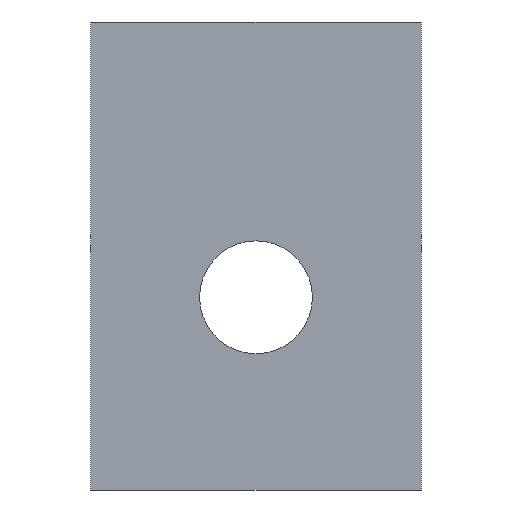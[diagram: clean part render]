
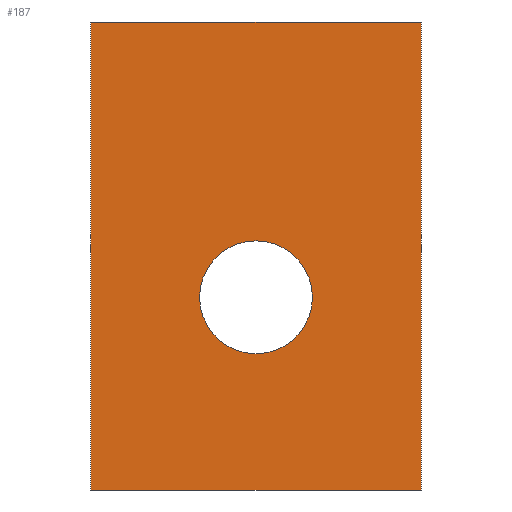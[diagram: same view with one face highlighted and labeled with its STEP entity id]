
A CAD part, front view. The second image highlights one B-rep face of the part: STEP entity #187.
In plain terms, the highlighted planar face has unit normal (0, -1, 0).
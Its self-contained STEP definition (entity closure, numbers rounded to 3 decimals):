
#7 = LINE ( 'NONE', #64, #305 ) ;
#15 = VECTOR ( 'NONE', #193, 1000. ) ;
#19 = EDGE_CURVE ( 'NONE', #185, #46, #284, .T. ) ;
#25 = CARTESIAN_POINT ( 'NONE',  ( 60., 0., -85. ) ) ;
#45 = DIRECTION ( 'NONE',  ( 1., 0., 0. ) ) ;
#46 = VERTEX_POINT ( 'NONE', #262 ) ;
#48 = EDGE_CURVE ( 'NONE', #135, #62, #7, .T. ) ;
#52 = CARTESIAN_POINT ( 'NONE',  ( 60., 0., 0. ) ) ;
#62 = VERTEX_POINT ( 'NONE', #308 ) ;
#63 = EDGE_LOOP ( 'NONE', ( #86, #82 ) ) ;
#64 = CARTESIAN_POINT ( 'NONE',  ( 0., 0., -85. ) ) ;
#65 = VECTOR ( 'NONE', #147, 1000. ) ;
#75 = VECTOR ( 'NONE', #45, 1000. ) ;
#82 = ORIENTED_EDGE ( 'NONE', *, *, #264, .T. ) ;
#86 = ORIENTED_EDGE ( 'NONE', *, *, #242, .T. ) ;
#87 = ORIENTED_EDGE ( 'NONE', *, *, #48, .F. ) ;
#91 = VERTEX_POINT ( 'NONE', #256 ) ;
#92 = CIRCLE ( 'NONE', #304, 10.25 ) ;
#112 = DIRECTION ( 'NONE',  ( -1., 0., 0. ) ) ;
#117 = DIRECTION ( 'NONE',  ( 0., -1., 0. ) ) ;
#118 = AXIS2_PLACEMENT_3D ( 'NONE', #128, #218, #273 ) ;
#119 = FACE_OUTER_BOUND ( 'NONE', #204, .T. ) ;
#128 = CARTESIAN_POINT ( 'NONE',  ( 30., 0., -50. ) ) ;
#130 = FACE_BOUND ( 'NONE', #63, .T. ) ;
#131 = DIRECTION ( 'NONE',  ( 0., 1., 0. ) ) ;
#135 = VERTEX_POINT ( 'NONE', #25 ) ;
#147 = DIRECTION ( 'NONE',  ( 0., 0., -1. ) ) ;
#153 = CARTESIAN_POINT ( 'NONE',  ( 30., 0., -39.75 ) ) ;
#159 = EDGE_CURVE ( 'NONE', #46, #135, #216, .T. ) ;
#174 = CARTESIAN_POINT ( 'NONE',  ( 30., 0., -50. ) ) ;
#185 = VERTEX_POINT ( 'NONE', #189 ) ;
#187 = ADVANCED_FACE ( 'NONE', ( #119, #130 ), #191, .T. ) ;
#189 = CARTESIAN_POINT ( 'NONE',  ( 0., 0., 0. ) ) ;
#191 = PLANE ( 'NONE',  #269 ) ;
#193 = DIRECTION ( 'NONE',  ( 0., 0., 1. ) ) ;
#195 = DIRECTION ( 'NONE',  ( 0., 0., -1. ) ) ;
#200 = EDGE_CURVE ( 'NONE', #62, #185, #207, .T. ) ;
#204 = EDGE_LOOP ( 'NONE', ( #302, #87, #229, #219 ) ) ;
#207 = LINE ( 'NONE', #232, #15 ) ;
#216 = LINE ( 'NONE', #52, #65 ) ;
#217 = DIRECTION ( 'NONE',  ( 0., 0., 1. ) ) ;
#218 = DIRECTION ( 'NONE',  ( 0., 1., 0. ) ) ;
#219 = ORIENTED_EDGE ( 'NONE', *, *, #19, .F. ) ;
#229 = ORIENTED_EDGE ( 'NONE', *, *, #159, .F. ) ;
#232 = CARTESIAN_POINT ( 'NONE',  ( 0., 0., 0. ) ) ;
#237 = CARTESIAN_POINT ( 'NONE',  ( 0., 0., 0. ) ) ;
#242 = EDGE_CURVE ( 'NONE', #91, #248, #301, .T. ) ;
#248 = VERTEX_POINT ( 'NONE', #153 ) ;
#256 = CARTESIAN_POINT ( 'NONE',  ( 30., 0., -60.25 ) ) ;
#262 = CARTESIAN_POINT ( 'NONE',  ( 60., 0., 0. ) ) ;
#264 = EDGE_CURVE ( 'NONE', #248, #91, #92, .T. ) ;
#269 = AXIS2_PLACEMENT_3D ( 'NONE', #237, #117, #195 ) ;
#273 = DIRECTION ( 'NONE',  ( 0., 0., 1. ) ) ;
#283 = CARTESIAN_POINT ( 'NONE',  ( 0., 0., 0. ) ) ;
#284 = LINE ( 'NONE', #283, #75 ) ;
#301 = CIRCLE ( 'NONE', #118, 10.25 ) ;
#302 = ORIENTED_EDGE ( 'NONE', *, *, #200, .F. ) ;
#304 = AXIS2_PLACEMENT_3D ( 'NONE', #174, #131, #217 ) ;
#305 = VECTOR ( 'NONE', #112, 1000. ) ;
#308 = CARTESIAN_POINT ( 'NONE',  ( 0., 0., -85. ) ) ;
